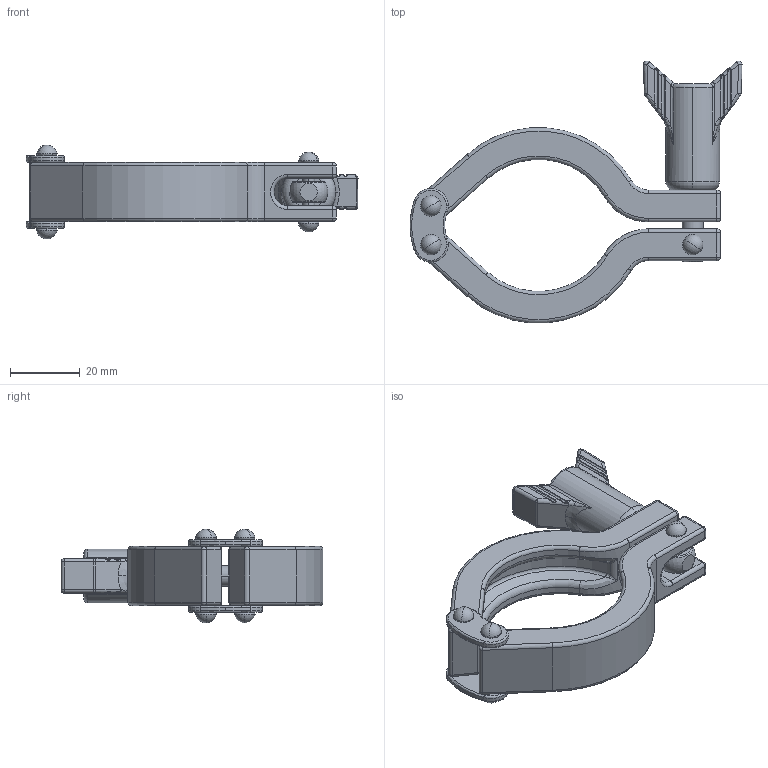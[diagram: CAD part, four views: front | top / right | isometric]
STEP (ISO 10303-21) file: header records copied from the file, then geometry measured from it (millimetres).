
FILE_DESCRIPTION (( 'STEP AP203' ), '1' );
FILE_NAME ('13MHHMD1.5.STEP', '2020-02-13T00:38:54', ( '' ), ( '' ), 'SwSTEP 2.0', 'SolidWorks 2014', '' );
FILE_SCHEMA (( 'CONFIG_CONTROL_DESIGN' ));
Length unit declared in the file: millimetre
Products named in the file (10): 13MHHD-1; 13MHHD-PARTS-1; 13MHHM-PART-4; 13MHHD-PARTS; 13MHHD-PARTS-2; 13MHHD; 13MHHD-PARTS-3; Wing Nut 11; 13MHHMD1.5; 13MHHD-2
Assembly tree (12 placements, depth 2):
  13MHHMD1.5
    13MHHD
    13MHHD-1
    13MHHD-2  x2
    Wing Nut 11
    13MHHD-PARTS-3
    13MHHD-PARTS-2
    13MHHD-PARTS-1  x2
    13MHHM-PART-4
    13MHHD-PARTS  x2
Bounding box: 95.54 x 75.34 x 27 mm (x, y, z)
Volume: 33065 mm3; surface area: 18682.2 mm2
Topology: 12 solids, 12 shells, 469 faces, 1099 edges, 617 vertices
Faces by surface type: cylinder 177, torus 91, bspline 80, plane 69, sphere 48, cone 4
Entity records: 16269 total; most frequent: CARTESIAN_POINT 6017, DIRECTION 1991, ORIENTED_EDGE 1894, EDGE_CURVE 947, AXIS2_PLACEMENT_3D 859, VERTEX_POINT 545, CIRCLE 498, EDGE_LOOP 448
